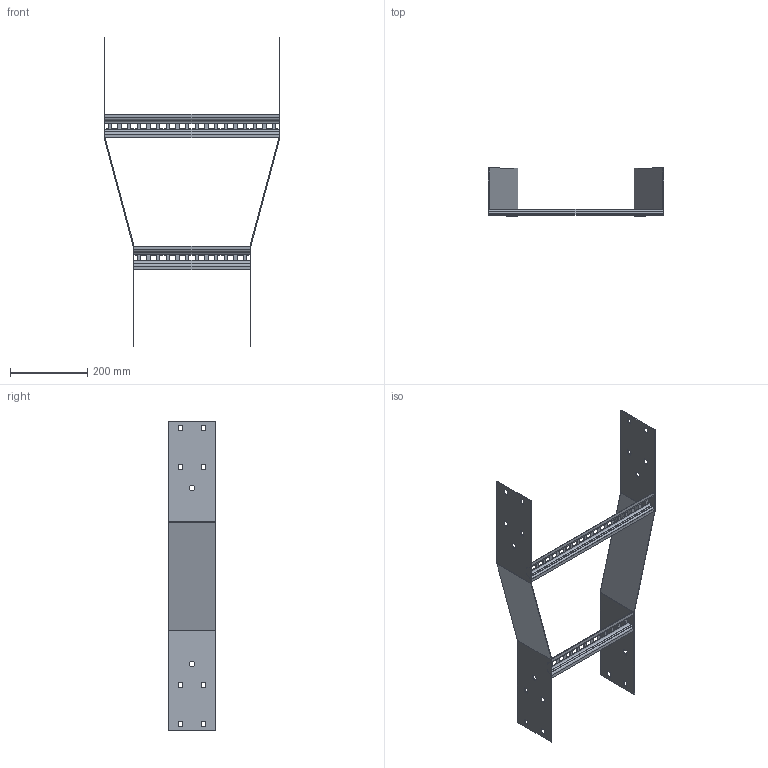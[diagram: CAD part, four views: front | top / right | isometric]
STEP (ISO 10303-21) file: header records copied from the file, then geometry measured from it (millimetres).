
FILE_DESCRIPTION (( 'STEP AP203' ), '1' );
FILE_NAME ('N3 SR 450300.STEP', '2024-08-27T20:29:12', ( '' ), ( '' ), 'SwSTEP 2.0', 'SolidWorks 2023', '' );
FILE_SCHEMA (( 'CONFIG_CONTROL_DESIGN' ));
Length unit declared in the file: millimetre
Products named in the file (4): N3 SR 450300; Ladder Rung_Ladder Rung -  300mm; Ladder Rung_Ladder Rung -  450mm; N3 Reducer side plate_SR300x450
Assembly tree (4 placements, depth 2):
  N3 SR 450300
    N3 Reducer side plate_SR300x450  x2
    Ladder Rung_Ladder Rung -  300mm
    Ladder Rung_Ladder Rung -  450mm
Bounding box: 454 x 124 x 800 mm (x, y, z)
Volume: 475900.6 mm3; surface area: 510844.2 mm2
Topology: 4 solids, 4 shells, 320 faces, 840 edges, 528 vertices
Faces by surface type: plane 288, cylinder 32
Entity records: 8438 total; most frequent: CARTESIAN_POINT 1389, ORIENTED_EDGE 1376, DIRECTION 1274, EDGE_CURVE 688, LINE 640, VECTOR 640, VERTEX_POINT 432, EDGE_LOOP 338
